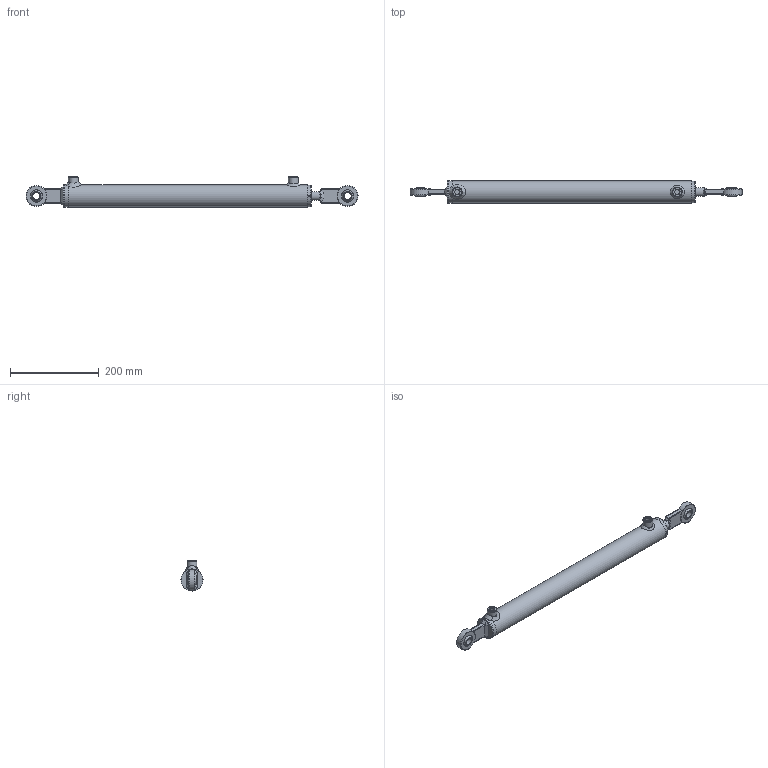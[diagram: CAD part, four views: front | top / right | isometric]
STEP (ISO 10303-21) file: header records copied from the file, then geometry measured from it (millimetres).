
FILE_DESCRIPTION( ( 'Unknown' ), '1' );
FILE_NAME( 'E:/LIBRERIA_3d/CILINDRI/HM1/HM11200450.stp', 'Unknown', ( 'Unknown' ), ( 'Unknown' ), 'PSStep 17.0.49', 'Unknown', ' ' );
FILE_SCHEMA( ( 'AUTOMOTIVE_DESIGN { 1 0 10303 214 1 1 1 1 }' ) );
Length unit declared in the file: millimetre
Products named in the file (32): CG05004020; CT00040015; STL1500450-oa6; Saldatura d'angolo 1-oa4; CBS0400000; FTM1500450-oa5; HM01200450; Saldatura con preparazione 1-oa2; Saldatura d'angolo 1-oa3; CF00040050; CDA0001415; APG0400000; SBL2010450; CSR0010495; CSR10495_CORPO; CSR10495_ROTULA; Assem1; Saldatura d'angolo 1-oa0; Saldatura d'angolo 2-oa1
Assembly tree (20 placements, depth 4):
  Saldatura d'angolo 1-oa4
  Saldatura d'angolo 1-oa4
  Saldatura d'angolo 1-oa3
  Saldatura d'angolo 1-oa3
  Assem1
    CSR0010495  x2
      CSR10495_CORPO
      CSR10495_ROTULA
    HM01200450
      Saldatura con preparazione 1-oa2
      Saldatura con preparazione 1-oa2
      CF00040050
      CDA0001415
      CBS0400000
      APG0400000  x2
      SBL2010450
      CT00040015
        CT00040015
      CG05004020
        CG05004020
      STL1500450-oa6
        CBS0400000
        FTM1500450-oa5
Bounding box: 747 x 50 x 68 mm (x, y, z)
Volume: 733421.3 mm3; surface area: 268417.9 mm2
Topology: 30 solids, 30 shells, 346 faces, 731 edges, 448 vertices
Faces by surface type: plane 124, cylinder 90, cone 46, torus 40, bspline 34, sphere 12
Full cylindrical faces by diameter (mm): 4 x4, 4.25 x1, 7 x2, 11.445 x2, 12 x2, 13.1 x2, 14 x2, 15 x3, 16 x2, 19.5 x1, 20 x10, 22 x4, 23 x1, 28 x1, 28.6 x1, 30 x1, 35 x1, 35.4 x2, 38.5 x2, 39.9 x1, 40 x1, 40.3 x1, 40.5 x1, 40.6 x1, 41 x1, 42 x3, 42.5 x1, 44 x1, 47 x2, 49 x1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
Entity records: 13648 total; most frequent: CARTESIAN_POINT 5268, DIRECTION 1184, ORIENTED_EDGE 924, AXIS2_PLACEMENT_3D 521, EDGE_LOOP 472, EDGE_CURVE 462, FACE_OUTER_BOUND 395, VERTEX_POINT 357
